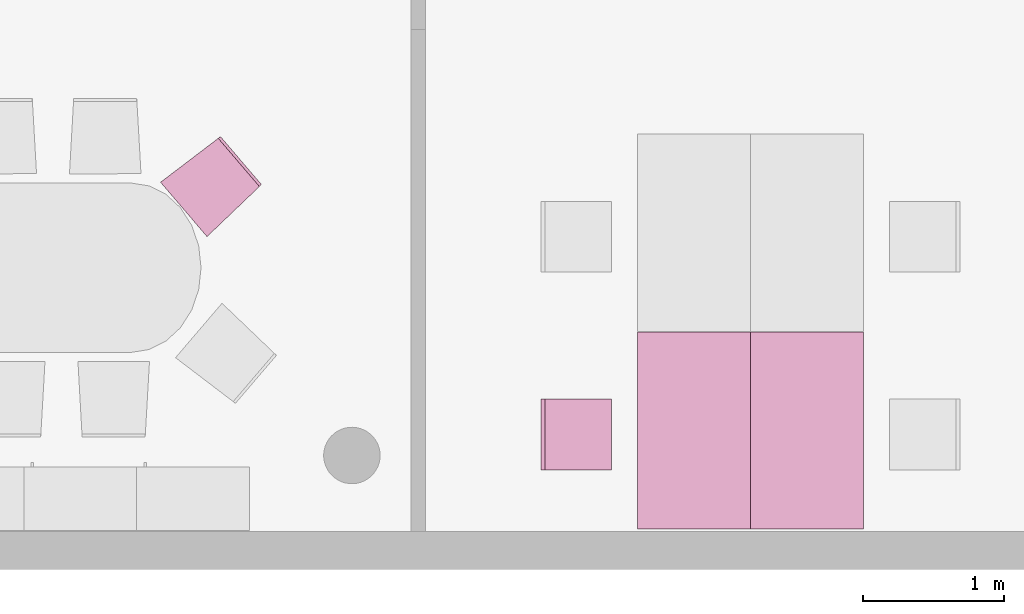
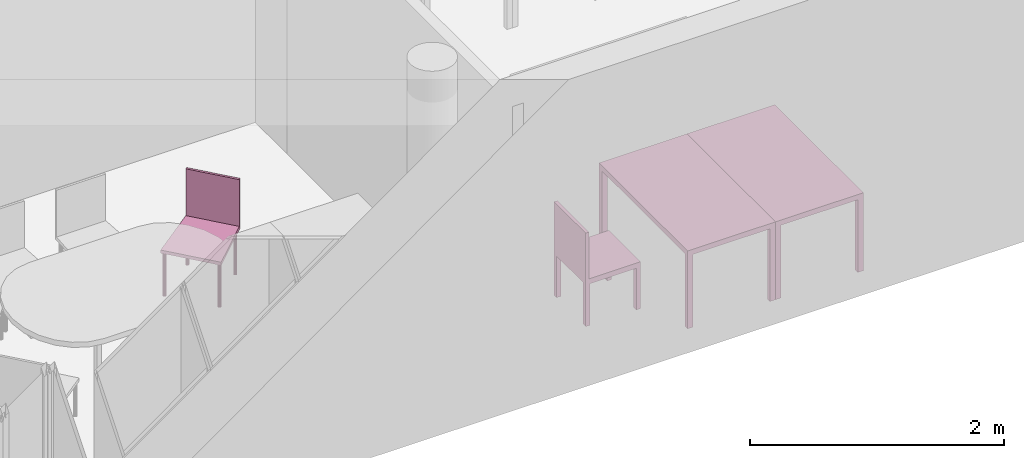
"""IFC4 building model written with IfcOpenShell, lengths in metres."""

from ifc_helpers import new_model, entity, si_unit, converted_unit, derived_unit, frame, origin, place, context, subcontext, project, spatial, faceted_brep, element, save


model = new_model("IFC4")

# Units and contexts
model_context = context("Model", 3, precision=1e-05, world=origin())
body_context = subcontext(model_context, "Body", "Model", "MODEL_VIEW")
ifc_project = project(units=[si_unit("LENGTHUNIT", "METRE"), si_unit("AREAUNIT", "SQUARE_METRE"), si_unit("VOLUMEUNIT", "CUBIC_METRE"), si_unit("MASSUNIT", "GRAM", prefix="KILO"), converted_unit("PLANEANGLEUNIT", "DEGREE", entity("IfcPlaneAngleMeasure", 0.0174532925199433), si_unit("PLANEANGLEUNIT", "RADIAN"), dimensions=[0, 0, 0, 0, 0, 0, 0]), derived_unit("THERMALTRANSMITTANCEUNIT", [(si_unit("POWERUNIT", "WATT"), 1), (si_unit("THERMODYNAMICTEMPERATUREUNIT", "KELVIN"), -1), (si_unit("LENGTHUNIT", "METRE"), -2)]), derived_unit("VOLUMETRICFLOWRATEUNIT", [(si_unit("LENGTHUNIT", "METRE"), 3), (converted_unit("TIMEUNIT", "hour", entity("IfcTimeMeasure", 3600.0), si_unit("TIMEUNIT", "SECOND"), dimensions=[0, 0, 1, 0, 0, 0, 0]), -1), (si_unit("LENGTHUNIT", "METRE"), -1)])], contexts=[model_context])

# Building, storeys
building_placement = place(None, origin())
building = spatial("IfcBuilding", under=ifc_project, at=building_placement, Name="HABITATGE PLURIFAMILIAR", CompositionType="ELEMENT")
storey_1_placement = place(building_placement, frame((0.0, 0.0, 12.27)))
storey_1 = spatial("IfcBuildingStorey", under=building, at=storey_1_placement, Name="PLANTA TERCERA", CompositionType="ELEMENT", Elevation=12.27)
storey_2_placement = place(storey_1_placement, frame((0.0, 0.0, 9.26)))
storey_2 = spatial("IfcBuildingStorey", under=storey_1, at=storey_2_placement, Name="NOU", CompositionType="PARTIAL")

# Furniture
furniture_1_placement = place(storey_2_placement, frame((413.556732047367, 13.1268712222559, -9.3599999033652)))
element("IfcFurniture", 1, at=furniture_1_placement, inside=storey_2, Name="Taula 140X80_P3", context=body_context, shape_type="Brep", body=[
    faceted_brep([(0.05, 0.0437500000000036, 0.0), (0.0, 0.0437500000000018, 0.0), (0.0, 0.0, 0.0), (0.05, 0.0, 0.0), (0.0, 0.0437500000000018, 0.7), (0.05, 0.0437500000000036, 0.7), (0.05, 0.0, 0.7), (0.0, 0.0, 0.7)], [[[0, 1, 2, 3]], [[4, 5, 6, 7]], [[1, 0, 5, 4]], [[2, 1, 4, 7]], [[3, 2, 7, 6]], [[0, 3, 6, 5]]], orient=[[False], [False], [False], [False], [False], [False]]),
    faceted_brep([(0.800069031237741, 0.0437500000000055, 0.0), (0.750069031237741, 0.0437500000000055, 0.0), (0.750069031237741, 0.0, 0.0), (0.800069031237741, 0.0, 0.0), (0.750069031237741, 0.0437500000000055, 0.7), (0.800069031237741, 0.0437500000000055, 0.7), (0.800069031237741, 0.0, 0.7), (0.750069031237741, 0.0, 0.7)], [[[0, 1, 2, 3]], [[4, 5, 6, 7]], [[1, 0, 5, 4]], [[2, 1, 4, 7]], [[3, 2, 7, 6]], [[0, 3, 6, 5]]], orient=[[False], [False], [False], [False], [False], [False]]),
    faceted_brep([(0.800069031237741, 1.39732768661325, 0.7), (0.0, 1.39732768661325, 0.7), (0.0, 0.0, 0.7), (0.800069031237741, 0.0, 0.7), (0.0, 1.39732768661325, 0.75), (0.800069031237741, 1.39732768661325, 0.75), (0.800069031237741, 0.0, 0.75), (0.0, 0.0, 0.75)], [[[0, 1, 2, 3]], [[4, 5, 6, 7]], [[1, 0, 5, 4]], [[2, 1, 4, 7]], [[3, 2, 7, 6]], [[0, 3, 6, 5]]], orient=[[False], [False], [False], [False], [False], [False]]),
    faceted_brep([(0.05, 1.39732768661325, 0.0), (0.0, 1.39732768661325, 0.0), (0.0, 1.35357768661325, 0.0), (0.05, 1.35357768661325, 0.0), (0.0, 1.39732768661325, 0.7), (0.05, 1.39732768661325, 0.7), (0.05, 1.35357768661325, 0.7), (0.0, 1.35357768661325, 0.7)], [[[0, 1, 2, 3]], [[4, 5, 6, 7]], [[1, 0, 5, 4]], [[2, 1, 4, 7]], [[3, 2, 7, 6]], [[0, 3, 6, 5]]], orient=[[False], [False], [False], [False], [False], [False]]),
    faceted_brep([(0.800069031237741, 1.39732768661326, 0.0), (0.750069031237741, 1.39732768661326, 0.0), (0.750069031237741, 1.35357768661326, 0.0), (0.800069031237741, 1.35357768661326, 0.0), (0.750069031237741, 1.39732768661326, 0.7), (0.800069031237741, 1.39732768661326, 0.7), (0.800069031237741, 1.35357768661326, 0.7), (0.750069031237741, 1.35357768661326, 0.7)], [[[0, 1, 2, 3]], [[4, 5, 6, 7]], [[1, 0, 5, 4]], [[2, 1, 4, 7]], [[3, 2, 7, 6]], [[0, 3, 6, 5]]], orient=[[False], [False], [False], [False], [False], [False]]),
])
furniture_2_placement = place(storey_2_placement, frame((412.75666301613, 13.1268712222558, -9.3599999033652)))
element("IfcFurniture", 2, at=furniture_2_placement, inside=storey_2, Name="Taula 140X80_P3", context=body_context, shape_type="Brep", body=[
    faceted_brep([(0.750069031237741, 0.0437500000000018, 0.0), (0.750069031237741, 0.0, 0.0), (0.800069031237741, 0.0, 0.0), (0.800069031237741, 0.0437500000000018, 0.0), (0.800069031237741, 0.0437500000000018, 0.7), (0.800069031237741, 0.0, 0.7), (0.750069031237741, 0.0, 0.7), (0.750069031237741, 0.0437500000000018, 0.7)], [[[0, 1, 2, 3]], [[4, 5, 6, 7]], [[3, 4, 7, 0]], [[2, 5, 4, 3]], [[1, 6, 5, 2]], [[0, 7, 6, 1]]], orient=[[False], [False], [False], [False], [False], [False]]),
    faceted_brep([(0.0, 0.0437500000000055, 0.0), (0.0, 0.0, 0.0), (0.05, 0.0, 0.0), (0.05, 0.0437500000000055, 0.0), (0.05, 0.0437500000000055, 0.7), (0.05, 0.0, 0.7), (0.0, 0.0, 0.7), (0.0, 0.0437500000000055, 0.7)], [[[0, 1, 2, 3]], [[4, 5, 6, 7]], [[3, 4, 7, 0]], [[2, 5, 4, 3]], [[1, 6, 5, 2]], [[0, 7, 6, 1]]], orient=[[False], [False], [False], [False], [False], [False]]),
    faceted_brep([(0.0, 1.39732768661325, 0.7), (0.0, 0.0, 0.7), (0.800069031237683, 0.0, 0.7), (0.800069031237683, 1.39732768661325, 0.7), (0.800069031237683, 1.39732768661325, 0.75), (0.800069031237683, 0.0, 0.75), (0.0, 0.0, 0.75), (0.0, 1.39732768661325, 0.75)], [[[0, 1, 2, 3]], [[4, 5, 6, 7]], [[3, 4, 7, 0]], [[2, 5, 4, 3]], [[1, 6, 5, 2]], [[0, 7, 6, 1]]], orient=[[False], [False], [False], [False], [False], [False]]),
    faceted_brep([(0.750069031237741, 1.39732768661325, 0.0), (0.750069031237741, 1.35357768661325, 0.0), (0.800069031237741, 1.35357768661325, 0.0), (0.800069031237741, 1.39732768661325, 0.0), (0.800069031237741, 1.39732768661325, 0.7), (0.800069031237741, 1.35357768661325, 0.7), (0.750069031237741, 1.35357768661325, 0.7), (0.750069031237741, 1.39732768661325, 0.7)], [[[0, 1, 2, 3]], [[4, 5, 6, 7]], [[3, 4, 7, 0]], [[2, 5, 4, 3]], [[1, 6, 5, 2]], [[0, 7, 6, 1]]], orient=[[False], [False], [False], [False], [False], [False]]),
    faceted_brep([(0.0, 1.39732768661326, 0.0), (0.0, 1.35357768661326, 0.0), (0.05, 1.35357768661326, 0.0), (0.05, 1.39732768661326, 0.0), (0.05, 1.39732768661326, 0.7), (0.05, 1.35357768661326, 0.7), (0.0, 1.35357768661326, 0.7), (0.0, 1.39732768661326, 0.7)], [[[0, 1, 2, 3]], [[4, 5, 6, 7]], [[3, 4, 7, 0]], [[2, 5, 4, 3]], [[1, 6, 5, 2]], [[0, 7, 6, 1]]], orient=[[False], [False], [False], [False], [False], [False]]),
])
furniture_3_placement = place(storey_2_placement, frame((409.378609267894, 15.1994327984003, -9.35699031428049)))
element("IfcFurniture", 3, at=furniture_3_placement, inside=storey_2, Name="Cadira confident_P3", context=body_context, shape_type="Brep", body=[
    faceted_brep([(0.0251072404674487, 0.394320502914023, 0.0), (0.0232836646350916, 0.392461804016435, 0.0), (0.0218105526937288, 0.390314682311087, 0.0), (0.0207326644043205, 0.387944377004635, 0.0), (0.020082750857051, 0.385422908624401, 0.0), (0.0198805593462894, 0.382826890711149, 0.0), (0.0201322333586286, 0.380235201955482, 0.0), (0.0208301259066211, 0.37772658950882, 0.0), (0.0219530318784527, 0.375377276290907, 0.0), (0.0234668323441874, 0.373258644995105, 0.0), (0.025325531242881, 0.371435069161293, 0.0), (0.0274726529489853, 0.369961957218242, 0.0), (0.0298429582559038, 0.368884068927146, 0.0), (0.0323644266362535, 0.36823415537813, 0.0), (0.0349604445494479, 0.368031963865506, 0.0), (0.037552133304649, 0.368283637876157, 0.0), (0.0400607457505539, 0.368981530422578, 0.0), (0.0424100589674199, 0.370104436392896, 0.0), (0.0445286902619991, 0.37161823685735, 0.0), (0.0463522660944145, 0.373476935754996, 0.0), (0.0478253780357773, 0.375624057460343, 0.0), (0.0489032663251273, 0.377994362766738, 0.0), (0.0495531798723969, 0.380515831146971, 0.0), (0.0497553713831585, 0.383111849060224, 0.0), (0.0495036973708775, 0.385703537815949, 0.0), (0.0488058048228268, 0.388212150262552, 0.0), (0.0476828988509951, 0.390561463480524, 0.0), (0.0461690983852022, 0.392680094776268, 0.0), (0.0443103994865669, 0.394503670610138, 0.0), (0.0421632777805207, 0.395976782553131, 0.0), (0.0397929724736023, 0.397054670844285, 0.0), (0.0372715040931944, 0.397704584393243, 0.0), (0.03467548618, 0.397906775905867, 0.0), (0.0320837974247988, 0.397655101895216, 0.0), (0.029575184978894, 0.396957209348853, 0.0), (0.027225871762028, 0.395834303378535, 0.0), (0.0251072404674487, 0.394320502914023, 0.448281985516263), (0.027225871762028, 0.395834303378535, 0.448281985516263), (0.029575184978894, 0.396957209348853, 0.448281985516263), (0.0320837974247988, 0.397655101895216, 0.448281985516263), (0.03467548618, 0.397906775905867, 0.448281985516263), (0.0372715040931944, 0.397704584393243, 0.448281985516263), (0.0397929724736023, 0.397054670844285, 0.448281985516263), (0.0421632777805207, 0.395976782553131, 0.448281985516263), (0.0443103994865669, 0.394503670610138, 0.448281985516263), (0.0461690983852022, 0.392680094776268, 0.448281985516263), (0.0476828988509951, 0.390561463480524, 0.448281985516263), (0.0488058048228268, 0.388212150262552, 0.448281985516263), (0.0495036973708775, 0.385703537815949, 0.448281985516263), (0.0497553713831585, 0.383111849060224, 0.448281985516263), (0.0495531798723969, 0.380515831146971, 0.448281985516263), (0.0489032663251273, 0.377994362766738, 0.448281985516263), (0.0478253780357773, 0.375624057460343, 0.448281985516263), (0.0463522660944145, 0.373476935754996, 0.448281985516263), (0.0445286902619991, 0.37161823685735, 0.448281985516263), (0.0424100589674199, 0.370104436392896, 0.448281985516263), (0.0400607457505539, 0.368981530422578, 0.448281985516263), (0.037552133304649, 0.368283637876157, 0.448281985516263), (0.0349604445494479, 0.368031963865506, 0.448281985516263), (0.0323644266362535, 0.36823415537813, 0.448281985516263), (0.0298429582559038, 0.368884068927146, 0.448281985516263), (0.0274726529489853, 0.369961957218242, 0.448281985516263), (0.025325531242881, 0.371435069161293, 0.448281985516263), (0.0234668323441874, 0.373258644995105, 0.448281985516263), (0.0219530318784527, 0.375377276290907, 0.448281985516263), (0.0208301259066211, 0.37772658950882, 0.448281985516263), (0.0201322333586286, 0.380235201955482, 0.448281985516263), (0.0198805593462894, 0.382826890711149, 0.448281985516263), (0.020082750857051, 0.385422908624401, 0.448281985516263), (0.0207326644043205, 0.387944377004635, 0.448281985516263), (0.0218105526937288, 0.390314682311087, 0.448281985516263), (0.0232836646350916, 0.392461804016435, 0.448281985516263)], [[[0, 1, 2, 3, 4, 5, 6, 7, 8, 9, 10, 11, 12, 13, 14, 15, 16, 17, 18, 19, 20, 21, 22, 23, 24, 25, 26, 27, 28, 29, 30, 31, 32, 33, 34, 35]], [[36, 37, 38, 39, 40, 41, 42, 43, 44, 45, 46, 47, 48, 49, 50, 51, 52, 53, 54, 55, 56, 57, 58, 59, 60, 61, 62, 63, 64, 65, 66, 67, 68, 69, 70, 71]], [[35, 37, 36, 0]], [[34, 38, 37, 35]], [[33, 39, 38, 34]], [[32, 40, 39, 33]], [[31, 41, 40, 32]], [[30, 42, 41, 31]], [[29, 43, 42, 30]], [[28, 44, 43, 29]], [[27, 45, 44, 28]], [[26, 46, 45, 27]], [[25, 47, 46, 26]], [[24, 48, 47, 25]], [[23, 49, 48, 24]], [[22, 50, 49, 23]], [[21, 51, 50, 22]], [[20, 52, 51, 21]], [[19, 53, 52, 20]], [[18, 54, 53, 19]], [[17, 55, 54, 18]], [[16, 56, 55, 17]], [[15, 57, 56, 16]], [[14, 58, 57, 15]], [[13, 59, 58, 14]], [[12, 60, 59, 13]], [[11, 61, 60, 12]], [[10, 62, 61, 11]], [[9, 63, 62, 10]], [[8, 64, 63, 9]], [[7, 65, 64, 8]], [[6, 66, 65, 7]], [[5, 67, 66, 6]], [[4, 68, 67, 5]], [[3, 69, 68, 4]], [[2, 70, 69, 3]], [[1, 71, 70, 2]], [[0, 36, 71, 1]]], orient=[[False], [False], [False], [False], [False], [False], [False], [False], [False], [False], [False], [False], [False], [False], [False], [False], [False], [False], [False], [False], [False], [False], [False], [False], [False], [False], [False], [False], [False], [False], [False], [False], [False], [False], [False], [False], [False], [False]]),
    faceted_brep([(0.394611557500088, 0.67369605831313, 0.0), (0.392787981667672, 0.671837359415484, 0.0), (0.391314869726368, 0.669690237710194, 0.0), (0.390236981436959, 0.6673199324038, 0.0), (0.389587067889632, 0.664798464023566, 0.0), (0.38938487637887, 0.662202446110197, 0.0), (0.389636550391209, 0.659610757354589, 0.0), (0.39033444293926, 0.657102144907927, 0.0), (0.391457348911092, 0.654752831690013, 0.0), (0.392971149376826, 0.65263420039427, 0.0), (0.39482984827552, 0.6508106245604, 0.0), (0.396976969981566, 0.649337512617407, 0.0), (0.399347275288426, 0.648259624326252, 0.0), (0.401868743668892, 0.647609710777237, 0.0), (0.404464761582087, 0.647407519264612, 0.0), (0.407056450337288, 0.647659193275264, 0.0), (0.409565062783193, 0.648357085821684, 0.0), (0.411914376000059, 0.649479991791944, 0.0), (0.41403300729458, 0.650993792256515, 0.0), (0.415856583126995, 0.652852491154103, 0.0), (0.4173296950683, 0.654999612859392, 0.0), (0.418407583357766, 0.657369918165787, 0.0), (0.419057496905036, 0.65989138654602, 0.0), (0.419259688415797, 0.662487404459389, 0.0), (0.419008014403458, 0.665079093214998, 0.0), (0.418310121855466, 0.667587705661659, 0.0), (0.417187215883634, 0.669937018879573, 0.0), (0.415673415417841, 0.672055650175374, 0.0), (0.413814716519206, 0.673879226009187, 0.0), (0.411667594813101, 0.675352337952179, 0.0), (0.409297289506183, 0.676430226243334, 0.0), (0.406775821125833, 0.67708013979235, 0.0), (0.404179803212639, 0.677282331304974, 0.0), (0.401588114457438, 0.677030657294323, 0.0), (0.399079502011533, 0.676332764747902, 0.0), (0.396730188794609, 0.675209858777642, 0.0), (0.394611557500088, 0.67369605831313, 0.448281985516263), (0.396730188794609, 0.675209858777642, 0.448281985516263), (0.399079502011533, 0.676332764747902, 0.448281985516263), (0.401588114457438, 0.677030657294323, 0.448281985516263), (0.404179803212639, 0.677282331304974, 0.448281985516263), (0.406775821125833, 0.67708013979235, 0.448281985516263), (0.409297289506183, 0.676430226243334, 0.448281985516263), (0.411667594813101, 0.675352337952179, 0.448281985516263), (0.413814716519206, 0.673879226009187, 0.448281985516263), (0.415673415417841, 0.672055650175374, 0.448281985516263), (0.417187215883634, 0.669937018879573, 0.448281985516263), (0.418310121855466, 0.667587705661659, 0.448281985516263), (0.419008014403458, 0.665079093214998, 0.448281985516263), (0.419259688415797, 0.662487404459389, 0.448281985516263), (0.419057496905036, 0.65989138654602, 0.448281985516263), (0.418407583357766, 0.657369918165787, 0.448281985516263), (0.4173296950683, 0.654999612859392, 0.448281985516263), (0.415856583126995, 0.652852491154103, 0.448281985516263), (0.41403300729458, 0.650993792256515, 0.448281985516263), (0.411914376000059, 0.649479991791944, 0.448281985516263), (0.409565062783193, 0.648357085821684, 0.448281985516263), (0.407056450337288, 0.647659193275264, 0.448281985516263), (0.404464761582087, 0.647407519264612, 0.448281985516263), (0.401868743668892, 0.647609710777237, 0.448281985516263), (0.399347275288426, 0.648259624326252, 0.448281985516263), (0.396976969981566, 0.649337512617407, 0.448281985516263), (0.39482984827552, 0.6508106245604, 0.448281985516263), (0.392971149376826, 0.65263420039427, 0.448281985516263), (0.391457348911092, 0.654752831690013, 0.448281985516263), (0.39033444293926, 0.657102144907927, 0.448281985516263), (0.389636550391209, 0.659610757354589, 0.448281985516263), (0.38938487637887, 0.662202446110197, 0.448281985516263), (0.389587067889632, 0.664798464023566, 0.448281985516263), (0.390236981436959, 0.6673199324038, 0.448281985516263), (0.391314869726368, 0.669690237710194, 0.448281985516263), (0.392787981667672, 0.671837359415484, 0.448281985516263)], [[[0, 1, 2, 3, 4, 5, 6, 7, 8, 9, 10, 11, 12, 13, 14, 15, 16, 17, 18, 19, 20, 21, 22, 23, 24, 25, 26, 27, 28, 29, 30, 31, 32, 33, 34, 35]], [[36, 37, 38, 39, 40, 41, 42, 43, 44, 45, 46, 47, 48, 49, 50, 51, 52, 53, 54, 55, 56, 57, 58, 59, 60, 61, 62, 63, 64, 65, 66, 67, 68, 69, 70, 71]], [[35, 37, 36, 0]], [[34, 38, 37, 35]], [[33, 39, 38, 34]], [[32, 40, 39, 33]], [[31, 41, 40, 32]], [[30, 42, 41, 31]], [[29, 43, 42, 30]], [[28, 44, 43, 29]], [[27, 45, 44, 28]], [[26, 46, 45, 27]], [[25, 47, 46, 26]], [[24, 48, 47, 25]], [[23, 49, 48, 24]], [[22, 50, 49, 23]], [[21, 51, 50, 22]], [[20, 52, 51, 21]], [[19, 53, 52, 20]], [[18, 54, 53, 19]], [[17, 55, 54, 18]], [[16, 56, 55, 17]], [[15, 57, 56, 16]], [[14, 58, 57, 15]], [[13, 59, 58, 14]], [[12, 60, 59, 13]], [[11, 61, 60, 12]], [[10, 62, 61, 11]], [[9, 63, 62, 10]], [[8, 64, 63, 9]], [[7, 65, 64, 8]], [[6, 66, 65, 7]], [[5, 67, 66, 6]], [[4, 68, 67, 5]], [[3, 69, 68, 4]], [[2, 70, 69, 3]], [[1, 71, 70, 2]], [[0, 36, 71, 1]]], orient=[[False], [False], [False], [False], [False], [False], [False], [False], [False], [False], [False], [False], [False], [False], [False], [False], [False], [False], [False], [False], [False], [False], [False], [False], [False], [False], [False], [False], [False], [False], [False], [False], [False], [False], [False], [False], [False], [False]]),
    faceted_brep([(0.323931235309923, 0.0446002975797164, 0.0), (0.322107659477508, 0.0427415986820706, 0.0), (0.320634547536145, 0.0405944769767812, 0.0), (0.319556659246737, 0.0382241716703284, 0.0), (0.318906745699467, 0.0357027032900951, 0.0), (0.318704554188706, 0.0331066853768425, 0.0), (0.318956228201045, 0.0305149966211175, 0.0), (0.319654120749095, 0.0280063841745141, 0.0), (0.320777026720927, 0.0256570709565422, 0.0), (0.322290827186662, 0.0235384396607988, 0.0), (0.324149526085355, 0.0217148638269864, 0.0), (0.326296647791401, 0.0202417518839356, 0.0), (0.328666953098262, 0.0191638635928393, 0.0), (0.331188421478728, 0.0185139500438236, 0.0), (0.333784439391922, 0.0183117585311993, 0.0), (0.336376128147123, 0.0185634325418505, 0.0), (0.338884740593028, 0.0192613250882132, 0.0), (0.341234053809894, 0.0203842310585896, 0.0), (0.343352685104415, 0.0218980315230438, 0.0), (0.345176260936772, 0.0237567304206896, 0.0), (0.346649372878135, 0.025903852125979, 0.0), (0.347727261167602, 0.0282741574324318, 0.0), (0.348377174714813, 0.0307956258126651, 0.0), (0.348579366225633, 0.0333916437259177, 0.0), (0.348327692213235, 0.0359833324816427, 0.0), (0.347629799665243, 0.0384919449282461, 0.0), (0.346506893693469, 0.040841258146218, 0.0), (0.344993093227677, 0.0429598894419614, 0.0), (0.343134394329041, 0.0447834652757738, 0.0), (0.340987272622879, 0.0462565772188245, 0.0), (0.338616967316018, 0.0473344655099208, 0.0), (0.336095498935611, 0.0479843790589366, 0.0), (0.333499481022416, 0.0481865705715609, 0.0), (0.330907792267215, 0.0479348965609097, 0.0), (0.32839917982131, 0.047237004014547, 0.0), (0.326049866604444, 0.0461140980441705, 0.0), (0.323931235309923, 0.0446002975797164, 0.448281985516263), (0.326049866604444, 0.0461140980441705, 0.448281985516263), (0.32839917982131, 0.047237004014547, 0.448281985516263), (0.330907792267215, 0.0479348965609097, 0.448281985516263), (0.333499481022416, 0.0481865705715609, 0.448281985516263), (0.336095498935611, 0.0479843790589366, 0.448281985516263), (0.338616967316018, 0.0473344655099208, 0.448281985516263), (0.340987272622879, 0.0462565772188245, 0.448281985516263), (0.343134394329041, 0.0447834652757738, 0.448281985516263), (0.344993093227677, 0.0429598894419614, 0.448281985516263), (0.346506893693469, 0.040841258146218, 0.448281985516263), (0.347629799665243, 0.0384919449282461, 0.448281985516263), (0.348327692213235, 0.0359833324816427, 0.448281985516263), (0.348579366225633, 0.0333916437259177, 0.448281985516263), (0.348377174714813, 0.0307956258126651, 0.448281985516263), (0.347727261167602, 0.0282741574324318, 0.448281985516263), (0.346649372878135, 0.025903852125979, 0.448281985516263), (0.345176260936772, 0.0237567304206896, 0.448281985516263), (0.343352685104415, 0.0218980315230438, 0.448281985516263), (0.341234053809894, 0.0203842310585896, 0.448281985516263), (0.338884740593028, 0.0192613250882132, 0.448281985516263), (0.336376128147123, 0.0185634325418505, 0.448281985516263), (0.333784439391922, 0.0183117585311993, 0.448281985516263), (0.331188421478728, 0.0185139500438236, 0.448281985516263), (0.328666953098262, 0.0191638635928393, 0.448281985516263), (0.326296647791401, 0.0202417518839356, 0.448281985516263), (0.324149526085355, 0.0217148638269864, 0.448281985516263), (0.322290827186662, 0.0235384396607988, 0.448281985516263), (0.320777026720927, 0.0256570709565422, 0.448281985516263), (0.319654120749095, 0.0280063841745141, 0.448281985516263), (0.318956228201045, 0.0305149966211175, 0.448281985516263), (0.318704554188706, 0.0331066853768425, 0.448281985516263), (0.318906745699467, 0.0357027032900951, 0.448281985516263), (0.319556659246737, 0.0382241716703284, 0.448281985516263), (0.320634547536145, 0.0405944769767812, 0.448281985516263), (0.322107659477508, 0.0427415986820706, 0.448281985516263)], [[[0, 1, 2, 3, 4, 5, 6, 7, 8, 9, 10, 11, 12, 13, 14, 15, 16, 17, 18, 19, 20, 21, 22, 23, 24, 25, 26, 27, 28, 29, 30, 31, 32, 33, 34, 35]], [[36, 37, 38, 39, 40, 41, 42, 43, 44, 45, 46, 47, 48, 49, 50, 51, 52, 53, 54, 55, 56, 57, 58, 59, 60, 61, 62, 63, 64, 65, 66, 67, 68, 69, 70, 71]], [[35, 37, 36, 0]], [[34, 38, 37, 35]], [[33, 39, 38, 34]], [[32, 40, 39, 33]], [[31, 41, 40, 32]], [[30, 42, 41, 31]], [[29, 43, 42, 30]], [[28, 44, 43, 29]], [[27, 45, 44, 28]], [[26, 46, 45, 27]], [[25, 47, 46, 26]], [[24, 48, 47, 25]], [[23, 49, 48, 24]], [[22, 50, 49, 23]], [[21, 51, 50, 22]], [[20, 52, 51, 21]], [[19, 53, 52, 20]], [[18, 54, 53, 19]], [[17, 55, 54, 18]], [[16, 56, 55, 17]], [[15, 57, 56, 16]], [[14, 58, 57, 15]], [[13, 59, 58, 14]], [[12, 60, 59, 13]], [[11, 61, 60, 12]], [[10, 62, 61, 11]], [[9, 63, 62, 10]], [[8, 64, 63, 9]], [[7, 65, 64, 8]], [[6, 66, 65, 7]], [[5, 67, 66, 6]], [[4, 68, 67, 5]], [[3, 69, 68, 4]], [[2, 70, 69, 3]], [[1, 71, 70, 2]], [[0, 36, 71, 1]]], orient=[[False], [False], [False], [False], [False], [False], [False], [False], [False], [False], [False], [False], [False], [False], [False], [False], [False], [False], [False], [False], [False], [False], [False], [False], [False], [False], [False], [False], [False], [False], [False], [False], [False], [False], [False], [False], [False], [False]]),
    faceted_brep([(0.654458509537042, 0.369591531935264, 0.0), (0.652634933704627, 0.367732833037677, 0.0), (0.651161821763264, 0.365585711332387, 0.0), (0.650083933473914, 0.363215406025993, 0.0), (0.649434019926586, 0.360693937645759, 0.0), (0.649231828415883, 0.35809791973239, 0.0), (0.649483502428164, 0.355506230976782, 0.0), (0.650181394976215, 0.35299761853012, 0.0), (0.651304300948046, 0.350648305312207, 0.0), (0.652818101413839, 0.348529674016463, 0.0), (0.654676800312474, 0.346706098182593, 0.0), (0.656823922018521, 0.3452329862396, 0.0), (0.659194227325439, 0.344155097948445, 0.0), (0.661715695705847, 0.34350518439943, 0.0), (0.664311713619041, 0.343302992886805, 0.0), (0.666903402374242, 0.343554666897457, 0.0), (0.669412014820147, 0.344252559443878, 0.0), (0.671761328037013, 0.345375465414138, 0.0), (0.673879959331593, 0.346889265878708, 0.0), (0.67570353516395, 0.348747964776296, 0.0), (0.677176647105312, 0.350895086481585, 0.0), (0.678254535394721, 0.35326539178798, 0.0), (0.67890444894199, 0.355786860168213, 0.0), (0.679106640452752, 0.358382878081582, 0.0), (0.678854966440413, 0.360974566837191, 0.0), (0.67815707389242, 0.363483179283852, 0.0), (0.677034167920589, 0.365832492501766, 0.0), (0.675520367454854, 0.367951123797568, 0.0), (0.67366166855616, 0.36977469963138, 0.0), (0.671514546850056, 0.371247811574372, 0.0), (0.669144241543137, 0.372325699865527, 0.0), (0.666622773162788, 0.372975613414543, 0.0), (0.664026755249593, 0.373177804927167, 0.0), (0.661435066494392, 0.372926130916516, 0.0), (0.658926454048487, 0.372228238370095, 0.0), (0.656577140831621, 0.371105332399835, 0.0), (0.654458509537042, 0.369591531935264, 0.448281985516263), (0.656577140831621, 0.371105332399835, 0.448281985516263), (0.658926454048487, 0.372228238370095, 0.448281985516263), (0.661435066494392, 0.372926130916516, 0.448281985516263), (0.664026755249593, 0.373177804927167, 0.448281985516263), (0.666622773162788, 0.372975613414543, 0.448281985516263), (0.669144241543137, 0.372325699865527, 0.448281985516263), (0.671514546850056, 0.371247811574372, 0.448281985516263), (0.67366166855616, 0.36977469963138, 0.448281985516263), (0.675520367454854, 0.367951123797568, 0.448281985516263), (0.677034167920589, 0.365832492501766, 0.448281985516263), (0.67815707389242, 0.363483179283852, 0.448281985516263), (0.678854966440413, 0.360974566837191, 0.448281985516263), (0.679106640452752, 0.358382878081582, 0.448281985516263), (0.67890444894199, 0.355786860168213, 0.448281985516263), (0.678254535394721, 0.35326539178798, 0.448281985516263), (0.677176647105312, 0.350895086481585, 0.448281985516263), (0.67570353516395, 0.348747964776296, 0.448281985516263), (0.673879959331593, 0.346889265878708, 0.448281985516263), (0.671761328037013, 0.345375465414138, 0.448281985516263), (0.669412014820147, 0.344252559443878, 0.448281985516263), (0.666903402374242, 0.343554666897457, 0.448281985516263), (0.664311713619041, 0.343302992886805, 0.448281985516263), (0.661715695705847, 0.34350518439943, 0.448281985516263), (0.659194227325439, 0.344155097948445, 0.448281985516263), (0.656823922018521, 0.3452329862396, 0.448281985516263), (0.654676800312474, 0.346706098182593, 0.448281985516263), (0.652818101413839, 0.348529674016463, 0.448281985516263), (0.651304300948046, 0.350648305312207, 0.448281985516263), (0.650181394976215, 0.35299761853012, 0.448281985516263), (0.649483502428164, 0.355506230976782, 0.448281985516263), (0.649231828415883, 0.35809791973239, 0.448281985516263), (0.649434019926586, 0.360693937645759, 0.448281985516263), (0.650083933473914, 0.363215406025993, 0.448281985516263), (0.651161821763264, 0.365585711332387, 0.448281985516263), (0.652634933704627, 0.367732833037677, 0.448281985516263)], [[[0, 1, 2, 3, 4, 5, 6, 7, 8, 9, 10, 11, 12, 13, 14, 15, 16, 17, 18, 19, 20, 21, 22, 23, 24, 25, 26, 27, 28, 29, 30, 31, 32, 33, 34, 35]], [[36, 37, 38, 39, 40, 41, 42, 43, 44, 45, 46, 47, 48, 49, 50, 51, 52, 53, 54, 55, 56, 57, 58, 59, 60, 61, 62, 63, 64, 65, 66, 67, 68, 69, 70, 71]], [[35, 37, 36, 0]], [[34, 38, 37, 35]], [[33, 39, 38, 34]], [[32, 40, 39, 33]], [[31, 41, 40, 32]], [[30, 42, 41, 31]], [[29, 43, 42, 30]], [[28, 44, 43, 29]], [[27, 45, 44, 28]], [[26, 46, 45, 27]], [[25, 47, 46, 26]], [[24, 48, 47, 25]], [[23, 49, 48, 24]], [[22, 50, 49, 23]], [[21, 51, 50, 22]], [[20, 52, 51, 21]], [[19, 53, 52, 20]], [[18, 54, 53, 19]], [[17, 55, 54, 18]], [[16, 56, 55, 17]], [[15, 57, 56, 16]], [[14, 58, 57, 15]], [[13, 59, 58, 14]], [[12, 60, 59, 13]], [[11, 61, 60, 12]], [[10, 62, 61, 11]], [[9, 63, 62, 10]], [[8, 64, 63, 9]], [[7, 65, 64, 8]], [[6, 66, 65, 7]], [[5, 67, 66, 6]], [[4, 68, 67, 5]], [[3, 69, 68, 4]], [[2, 70, 69, 3]], [[1, 71, 70, 2]], [[0, 36, 71, 1]]], orient=[[False], [False], [False], [False], [False], [False], [False], [False], [False], [False], [False], [False], [False], [False], [False], [False], [False], [False], [False], [False], [False], [False], [False], [False], [False], [False], [False], [False], [False], [False], [False], [False], [False], [False], [False], [False], [False], [False]]),
    faceted_brep([(0.714473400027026, 0.368799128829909, 0.418281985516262), (0.424409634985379, 0.708267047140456, 0.418281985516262), (0.0, 0.385083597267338, 0.418281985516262), (0.32904080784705, 0.0, 0.418281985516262), (0.32904080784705, 0.0, 0.448281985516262), (0.0, 0.385083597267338, 0.448281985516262), (0.424409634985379, 0.708267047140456, 0.448281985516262), (0.714473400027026, 0.368799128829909, 0.448281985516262)], [[[0, 1, 2, 3]], [[4, 5, 6, 7]], [[3, 4, 7, 0]], [[2, 5, 4, 3]], [[1, 6, 5, 2]], [[0, 7, 6, 1]]], orient=[[False], [False], [False], [False], [False], [False]]),
    faceted_brep([(0.699268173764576, 0.35580678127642, 0.448281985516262), (0.714473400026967, 0.368799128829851, 0.448281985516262), (0.424409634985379, 0.708267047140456, 0.448281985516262), (0.409204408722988, 0.695274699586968, 0.448281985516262), (0.409204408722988, 0.695274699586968, 0.89828198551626), (0.424409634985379, 0.708267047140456, 0.89828198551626), (0.714473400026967, 0.368799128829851, 0.89828198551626), (0.699268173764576, 0.35580678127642, 0.89828198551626)], [[[0, 1, 2, 3]], [[4, 5, 6, 7]], [[3, 4, 7, 0]], [[2, 5, 4, 3]], [[1, 6, 5, 2]], [[0, 7, 6, 1]]], orient=[[False], [False], [False], [False], [False], [False]]),
])
furniture_4_placement = place(storey_2_placement, frame((412.072520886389, 13.5480313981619, -9.3546338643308)))
element("IfcFurniture", 4, at=furniture_4_placement, inside=storey_2, Name="Cadira d'Oficina_P3", context=body_context, shape_type="Brep", body=[
    faceted_brep([(0.500000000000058, 0.500000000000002, 0.4), (0.0, 0.5, 0.4), (0.0, 0.0, 0.4), (0.500000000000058, 0.0, 0.4), (0.0, 0.5, 0.45), (0.500000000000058, 0.500000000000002, 0.45), (0.500000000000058, 0.0, 0.45), (0.0, 0.0, 0.45)], [[[0, 1, 2, 3]], [[4, 5, 6, 7]], [[1, 0, 5, 4]], [[2, 1, 4, 7]], [[3, 2, 7, 6]], [[0, 3, 6, 5]]], orient=[[False], [False], [False], [False], [False], [False]]),
    faceted_brep([(0.0400000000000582, 0.0, 0.0), (0.0400000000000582, 0.0400000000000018, 0.0), (0.0, 0.04, 0.0), (0.0, 0.0, 0.0), (0.0400000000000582, 0.0400000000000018, 0.4), (0.0400000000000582, 0.0, 0.4), (0.0, 0.0, 0.4), (0.0, 0.04, 0.4)], [[[0, 1, 2, 3]], [[4, 5, 6, 7]], [[1, 0, 5, 4]], [[2, 1, 4, 7]], [[3, 2, 7, 6]], [[0, 3, 6, 5]]], orient=[[False], [False], [False], [False], [False], [False]]),
    faceted_brep([(0.500000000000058, 0.0, 0.0), (0.500000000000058, 0.0400000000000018, 0.0), (0.460000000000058, 0.0400000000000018, 0.0), (0.460000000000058, 0.0, 0.0), (0.500000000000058, 0.0400000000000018, 0.4), (0.500000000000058, 0.0, 0.4), (0.460000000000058, 0.0, 0.4), (0.460000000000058, 0.0400000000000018, 0.4)], [[[0, 1, 2, 3]], [[4, 5, 6, 7]], [[1, 0, 5, 4]], [[2, 1, 4, 7]], [[3, 2, 7, 6]], [[0, 3, 6, 5]]], orient=[[False], [False], [False], [False], [False], [False]]),
    faceted_brep([(0.04, 0.46, 0.0), (0.04, 0.5, 0.0), (0.0, 0.5, 0.0), (0.0, 0.46, 0.0), (0.04, 0.5, 0.4), (0.04, 0.46, 0.4), (0.0, 0.46, 0.4), (0.0, 0.5, 0.4)], [[[0, 1, 2, 3]], [[4, 5, 6, 7]], [[1, 0, 5, 4]], [[2, 1, 4, 7]], [[3, 2, 7, 6]], [[0, 3, 6, 5]]], orient=[[False], [False], [False], [False], [False], [False]]),
    faceted_brep([(0.500000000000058, 0.460000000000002, 0.0), (0.500000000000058, 0.500000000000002, 0.0), (0.460000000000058, 0.500000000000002, 0.0), (0.460000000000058, 0.460000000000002, 0.0), (0.500000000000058, 0.500000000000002, 0.4), (0.500000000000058, 0.460000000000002, 0.4), (0.460000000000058, 0.460000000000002, 0.4), (0.460000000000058, 0.500000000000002, 0.4)], [[[0, 1, 2, 3]], [[4, 5, 6, 7]], [[1, 0, 5, 4]], [[2, 1, 4, 7]], [[3, 2, 7, 6]], [[0, 3, 6, 5]]], orient=[[False], [False], [False], [False], [False], [False]]),
    faceted_brep([(0.0300000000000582, 0.0, 0.45), (0.03, 0.5, 0.45), (0.0, 0.5, 0.45), (0.0, 0.0, 0.45), (0.03, 0.5, 0.9), (0.0300000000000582, 0.0, 0.9), (0.0, 0.0, 0.9), (0.0, 0.5, 0.9)], [[[0, 1, 2, 3]], [[4, 5, 6, 7]], [[1, 0, 5, 4]], [[2, 1, 4, 7]], [[3, 2, 7, 6]], [[0, 3, 6, 5]]], orient=[[False], [False], [False], [False], [False], [False]]),
])

save(model, "model.ifc")
